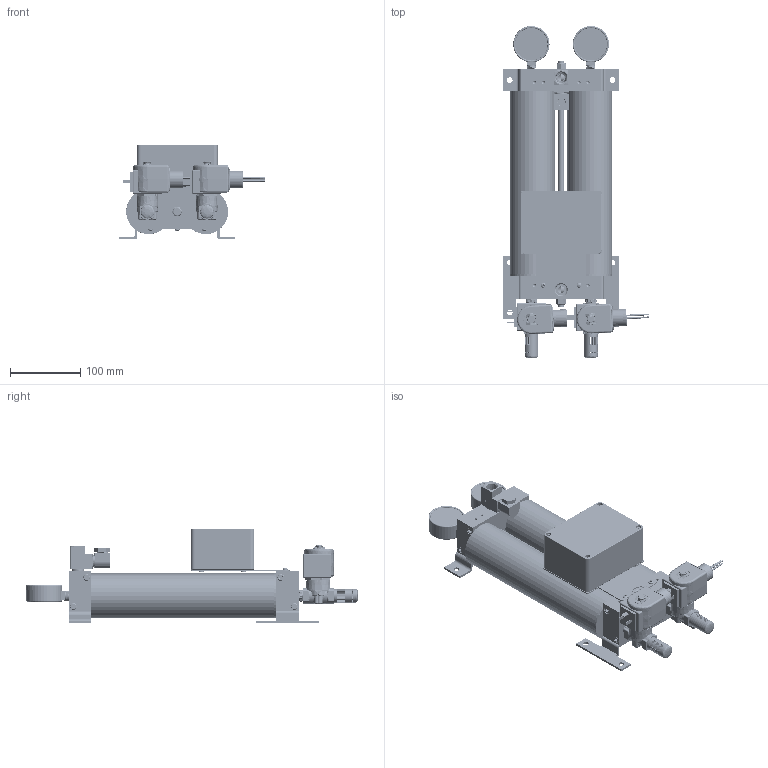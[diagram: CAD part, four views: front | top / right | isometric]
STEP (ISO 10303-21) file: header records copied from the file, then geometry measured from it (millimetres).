
FILE_DESCRIPTION (( 'STEP AP214' ), '1' );
FILE_NAME ('HR3-XX-XXXX.STEP', '2020-09-16T19:00:15', ( '' ), ( '' ), 'SwSTEP 2.0', 'SolidWorks 2017', '' );
FILE_SCHEMA (( 'AUTOMOTIVE_DESIGN' ));
Length unit declared in the file: inch
Products named in the file (1): HR3-XX-XXXX
Bounding box: 207.33 x 471.75 x 134.89 mm (x, y, z)
Volume: 1393578.4 mm3; surface area: 690874.3 mm2
Topology: 78 solids, 84 shells, 7602 faces, 20087 edges, 12735 vertices
Faces by surface type: plane 3056, cylinder 2391, cone 983, bspline 832, torus 302, sphere 38
Entity records: 443684 total; most frequent: CARTESIAN_POINT 166183, ORIENTED_EDGE 39762, DIRECTION 33626, EDGE_CURVE 19881, VERTEX_POINT 12735, AXIS2_PLACEMENT_3D 12056, LINE 9514, VECTOR 9514
